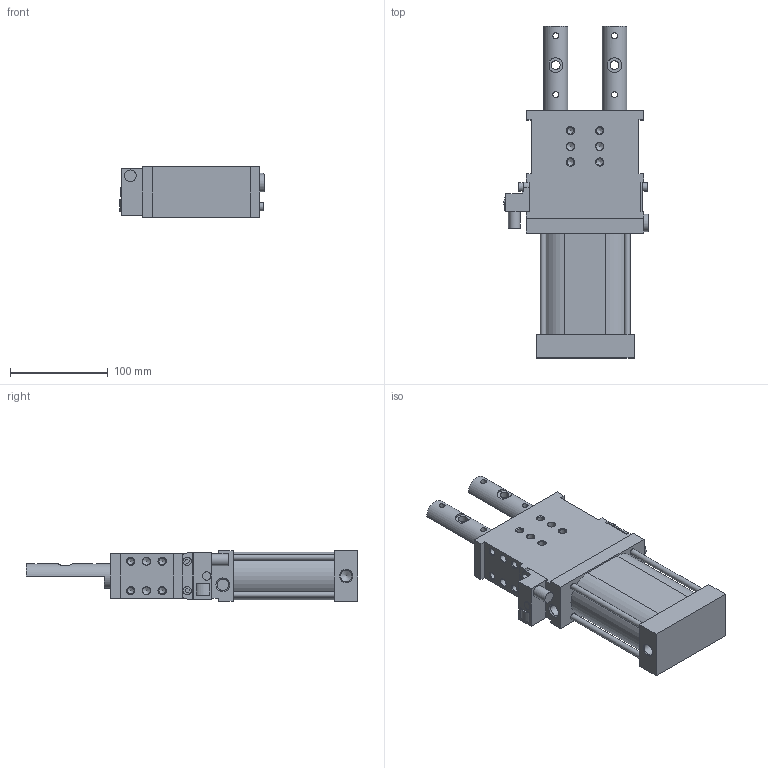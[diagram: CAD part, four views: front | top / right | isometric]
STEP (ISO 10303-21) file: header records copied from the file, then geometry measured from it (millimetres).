
FILE_DESCRIPTION((''),'2;1');
FILE_NAME('S:\Tom\INVENTOR FILES\AUTOMOTIVE\VEP\LOCATORS\DCPD Step Files\DCPD\07d_DCPD63\XLP63-2-3-ES1-IR-60.stp','2014-09-03T08:33:38',('carl'),(''),'Autodesk Inventor 2013','Autodesk Inventor 2013','');
FILE_SCHEMA(('AUTOMOTIVE_DESIGN { 1 0 10303 214 1 1 1 1 }'));
Length unit declared in the file: millimetre
Products named in the file (8): Assembly10; Part89; Part91; Part93; Part95; Part97; Part99; Part101
Assembly tree (7 placements, depth 2):
  Assembly10
    Part89
    Part91
    Part93
    Part95
    Part97
    Part99
    Part101
Bounding box: 147.6 x 339 x 52 mm (x, y, z)
Volume: 1235558.5 mm3; surface area: 171705.8 mm2
Topology: 7 solids, 7 shells, 245 faces, 566 edges, 360 vertices
Faces by surface type: plane 116, cylinder 68, cone 61
Full cylindrical faces by diameter (mm): 4 x4, 6 x8, 6.8 x16, 8 x8, 8.5 x5, 9 x2, 11.6 x1, 11.8 x2, 12 x1, 13 x1, 16 x4, 18 x1, 25 x4
Entity records: 6518 total; most frequent: CARTESIAN_POINT 1198, DIRECTION 1080, ORIENTED_EDGE 830, AXIS2_PLACEMENT_3D 421, EDGE_CURVE 415, EDGE_LOOP 404, VERTEX_POINT 327, FACE_OUTER_BOUND 245
